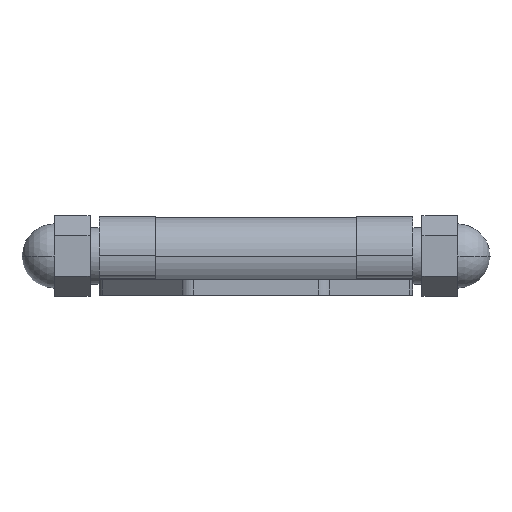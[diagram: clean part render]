
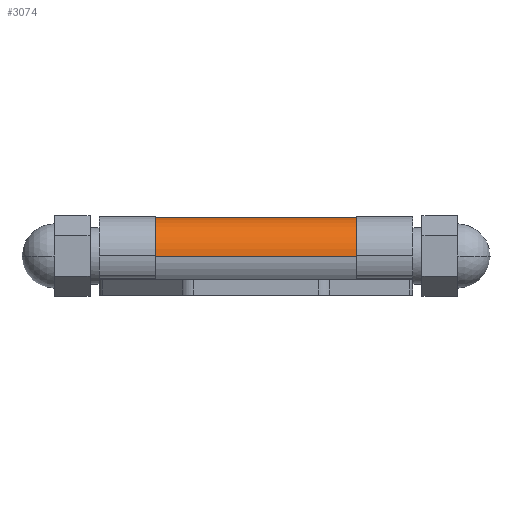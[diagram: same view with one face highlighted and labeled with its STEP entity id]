
A CAD part, left-side view. The second image highlights one B-rep face of the part: STEP entity #3074.
In plain terms, the highlighted cylindrical face has radius 8.5 mm (diameter 17 mm), a partial arc.
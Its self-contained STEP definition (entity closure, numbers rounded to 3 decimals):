
#14 = VERTEX_POINT ( 'NONE', #240 ) ;
#113 = CARTESIAN_POINT ( 'NONE',  ( 8.5, -22.5, 0. ) ) ;
#120 = DIRECTION ( 'NONE',  ( 0., 1., 0. ) ) ;
#129 = ORIENTED_EDGE ( 'NONE', *, *, #946, .F. ) ;
#240 = CARTESIAN_POINT ( 'NONE',  ( -8.5, -22.5, 0. ) ) ;
#263 = DIRECTION ( 'NONE',  ( 0., 1., 0. ) ) ;
#505 = LINE ( 'NONE', #2902, #1495 ) ;
#686 = EDGE_CURVE ( 'NONE', #3723, #14, #2895, .T. ) ;
#775 = DIRECTION ( 'NONE',  ( 0., 1., 0. ) ) ;
#777 = FACE_OUTER_BOUND ( 'NONE', #896, .T. ) ;
#839 = AXIS2_PLACEMENT_3D ( 'NONE', #2751, #120, #1569 ) ;
#867 = DIRECTION ( 'NONE',  ( 0., -1., 0. ) ) ;
#896 = EDGE_LOOP ( 'NONE', ( #3514, #2247, #1240, #129 ) ) ;
#946 = EDGE_CURVE ( 'NONE', #14, #1586, #2024, .T. ) ;
#1147 = DIRECTION ( 'NONE',  ( -1., 0., 0. ) ) ;
#1240 = ORIENTED_EDGE ( 'NONE', *, *, #2876, .F. ) ;
#1495 = VECTOR ( 'NONE', #775, 1000. ) ;
#1569 = DIRECTION ( 'NONE',  ( 0., 0., -1. ) ) ;
#1586 = VERTEX_POINT ( 'NONE', #2156 ) ;
#1912 = VERTEX_POINT ( 'NONE', #2549 ) ;
#1983 = EDGE_CURVE ( 'NONE', #3723, #1912, #505, .T. ) ;
#2024 = LINE ( 'NONE', #2943, #3547 ) ;
#2156 = CARTESIAN_POINT ( 'NONE',  ( -8.5, 22.5, 0. ) ) ;
#2247 = ORIENTED_EDGE ( 'NONE', *, *, #1983, .T. ) ;
#2363 = CARTESIAN_POINT ( 'NONE',  ( 0., -22.5, 0. ) ) ;
#2386 = DIRECTION ( 'NONE',  ( 0.811, 0., -0.585 ) ) ;
#2549 = CARTESIAN_POINT ( 'NONE',  ( 8.5, 22.5, 0. ) ) ;
#2751 = CARTESIAN_POINT ( 'NONE',  ( 0., 22.5, 0. ) ) ;
#2876 = EDGE_CURVE ( 'NONE', #1586, #1912, #3703, .T. ) ;
#2884 = CARTESIAN_POINT ( 'NONE',  ( 0., -35., 0. ) ) ;
#2895 = CIRCLE ( 'NONE', #3340, 8.5 ) ;
#2902 = CARTESIAN_POINT ( 'NONE',  ( 8.5, -35., 0. ) ) ;
#2943 = CARTESIAN_POINT ( 'NONE',  ( -8.5, -35., 0. ) ) ;
#3074 = ADVANCED_FACE ( 'NONE', ( #777 ), #3771, .T. ) ;
#3340 = AXIS2_PLACEMENT_3D ( 'NONE', #2363, #867, #2386 ) ;
#3514 = ORIENTED_EDGE ( 'NONE', *, *, #686, .F. ) ;
#3547 = VECTOR ( 'NONE', #263, 1000. ) ;
#3703 = CIRCLE ( 'NONE', #839, 8.5 ) ;
#3723 = VERTEX_POINT ( 'NONE', #113 ) ;
#3749 = DIRECTION ( 'NONE',  ( 0., 1., 0. ) ) ;
#3771 = CYLINDRICAL_SURFACE ( 'NONE', #3829, 8.5 ) ;
#3829 = AXIS2_PLACEMENT_3D ( 'NONE', #2884, #3749, #1147 ) ;
